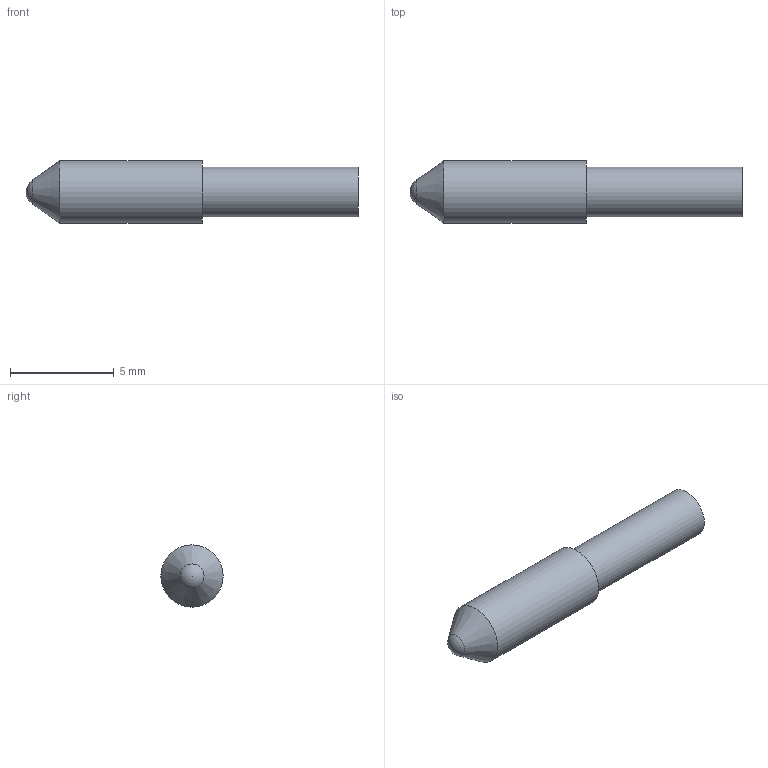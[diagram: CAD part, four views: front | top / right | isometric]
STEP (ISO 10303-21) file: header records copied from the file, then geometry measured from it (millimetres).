
FILE_DESCRIPTION( ( 'STEP AP203' ), '1' );
FILE_NAME( 'C:/Temp/Ganter_Step_05_03_2020/data/3_1/gn610/Spring loaded shell GN 610-3-16-K.stp', '2020-03-12T08:33:19', ( 'License CC BY-ND 4.0' ), ( 'CADENAS' ), ' ', 'PARTsolutions', ' ' );
FILE_SCHEMA( ( 'CONFIG_CONTROL_DESIGN' ) );
Length unit declared in the file: millimetre
Products named in the file (1): _Spring loaded shell GN 610-3-16-K
Bounding box: 16 x 3 x 3 mm (x, y, z)
Volume: 59 mm3; surface area: 192.1 mm2
Topology: 1 solids, 1 shells, 8 faces, 14 edges, 9 vertices
Faces by surface type: cylinder 3, plane 3, cone 1, sphere 1
Full cylindrical faces by diameter (mm): 2.2 x1, 2.4 x1, 3 x1
Entity records: 202 total; most frequent: DIRECTION 32, CARTESIAN_POINT 24, AXIS2_PLACEMENT_3D 16, EDGE_LOOP 14, ORIENTED_EDGE 14, FACE_OUTER_BOUND 11, ADVANCED_FACE 8, VERTEX_POINT 8
